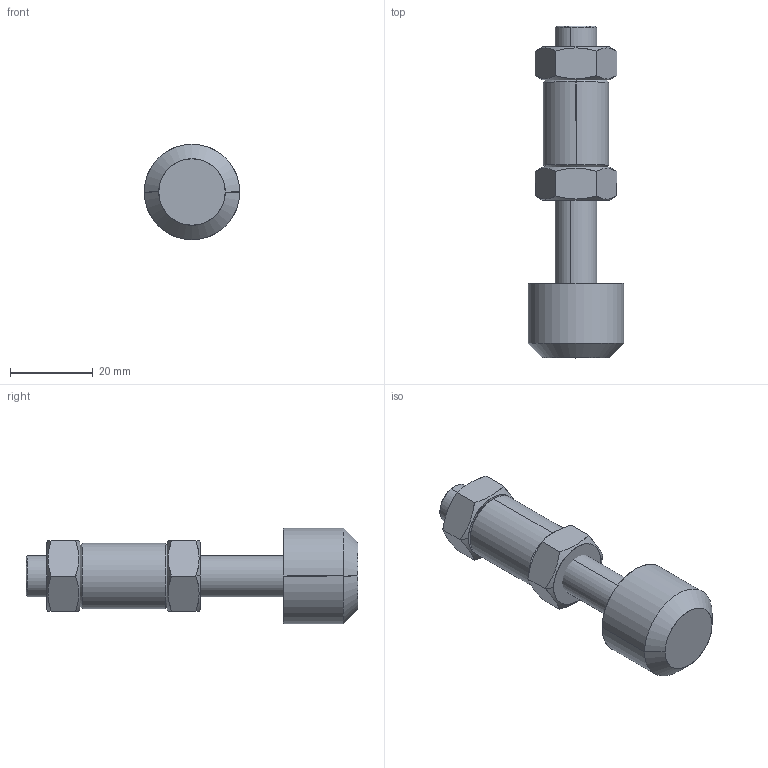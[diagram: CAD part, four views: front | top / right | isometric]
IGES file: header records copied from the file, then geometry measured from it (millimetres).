
Start section: SolidWorks IGES file using analytic representation for surfaces
Global section: file name: C:\Projetos\Ponteiras\BRB\BRB-M10.IGS; native system: SolidWorks 2011; preprocessor: SolidWorks 2011; author: Usuario; date: 110523.132419; units: millimetre
Bounding box: 23 x 80 x 23 mm (x, y, z)
Surface area: 8582 mm2 (no closed solid volume)
Topology: 0 solids, 0 shells, 68 faces, 1104 edges, 1102 vertices
Faces by surface type: revolution 46, bspline 22
